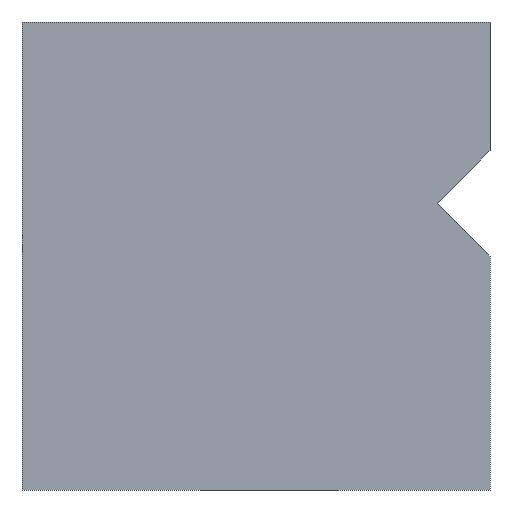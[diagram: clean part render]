
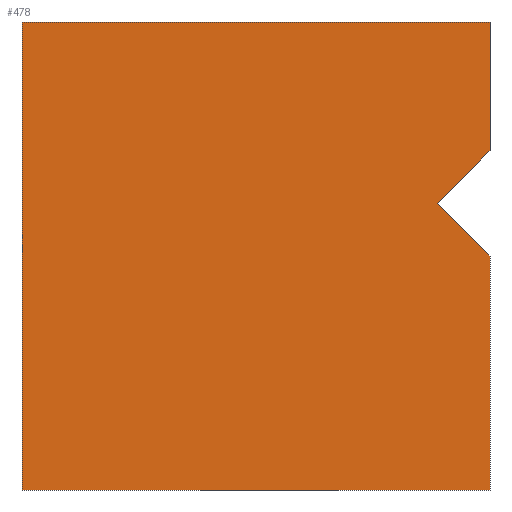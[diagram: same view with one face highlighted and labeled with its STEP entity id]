
A CAD part, front view. The second image highlights one B-rep face of the part: STEP entity #478.
In plain terms, the highlighted planar face has unit normal (0, -1, 0).
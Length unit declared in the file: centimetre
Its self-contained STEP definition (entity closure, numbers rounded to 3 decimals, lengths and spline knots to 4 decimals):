
#14 = CARTESIAN_POINT ( 'NONE',  ( 0., 0., 1000. ) ) ;
#30 = VECTOR ( 'NONE', #269, 100. ) ;
#33 = VERTEX_POINT ( 'NONE', #14 ) ;
#37 = CARTESIAN_POINT ( 'NONE',  ( 1000., 0., 724.5416 ) ) ;
#40 = CARTESIAN_POINT ( 'NONE',  ( 1000., 0., 500. ) ) ;
#48 = DIRECTION ( 'NONE',  ( 0.707, 0., -0.707 ) ) ;
#52 = CARTESIAN_POINT ( 'NONE',  ( 0., 0., 0. ) ) ;
#55 = ORIENTED_EDGE ( 'NONE', *, *, #185, .F. ) ;
#62 = EDGE_LOOP ( 'NONE', ( #55, #102, #345, #387, #469, #124, #300 ) ) ;
#73 = EDGE_CURVE ( 'NONE', #33, #342, #381, .T. ) ;
#81 = CARTESIAN_POINT ( 'NONE',  ( 887.7292, 0., 612.2708 ) ) ;
#84 = CARTESIAN_POINT ( 'NONE',  ( 1000., 0., 1000. ) ) ;
#89 = DIRECTION ( 'NONE',  ( 0., 0., -1. ) ) ;
#92 = CARTESIAN_POINT ( 'NONE',  ( 0., 0., 1000. ) ) ;
#102 = ORIENTED_EDGE ( 'NONE', *, *, #179, .F. ) ;
#114 = AXIS2_PLACEMENT_3D ( 'NONE', #92, #334, #471 ) ;
#115 = EDGE_CURVE ( 'NONE', #163, #203, #282, .T. ) ;
#124 = ORIENTED_EDGE ( 'NONE', *, *, #310, .T. ) ;
#146 = VERTEX_POINT ( 'NONE', #329 ) ;
#156 = CARTESIAN_POINT ( 'NONE',  ( 1000., 0., 1000. ) ) ;
#160 = CARTESIAN_POINT ( 'NONE',  ( 0., 0., 1000. ) ) ;
#163 = VERTEX_POINT ( 'NONE', #37 ) ;
#169 = VECTOR ( 'NONE', #280, 100. ) ;
#179 = EDGE_CURVE ( 'NONE', #203, #529, #550, .T. ) ;
#185 = EDGE_CURVE ( 'NONE', #529, #146, #324, .T. ) ;
#200 = FACE_OUTER_BOUND ( 'NONE', #62, .T. ) ;
#203 = VERTEX_POINT ( 'NONE', #81 ) ;
#233 = LINE ( 'NONE', #595, #434 ) ;
#254 = DIRECTION ( 'NONE',  ( 1., 0., 0. ) ) ;
#269 = DIRECTION ( 'NONE',  ( 0., 0., -1. ) ) ;
#280 = DIRECTION ( 'NONE',  ( -0.707, 0., -0.707 ) ) ;
#282 = LINE ( 'NONE', #584, #169 ) ;
#300 = ORIENTED_EDGE ( 'NONE', *, *, #413, .T. ) ;
#310 = EDGE_CURVE ( 'NONE', #33, #503, #504, .T. ) ;
#315 = CARTESIAN_POINT ( 'NONE',  ( 0., 0., 1000. ) ) ;
#324 = LINE ( 'NONE', #84, #444 ) ;
#329 = CARTESIAN_POINT ( 'NONE',  ( 1000., 0., 0. ) ) ;
#334 = DIRECTION ( 'NONE',  ( 0., 1., 0. ) ) ;
#342 = VERTEX_POINT ( 'NONE', #500 ) ;
#345 = ORIENTED_EDGE ( 'NONE', *, *, #115, .F. ) ;
#355 = DIRECTION ( 'NONE',  ( 1., 0., 0. ) ) ;
#381 = LINE ( 'NONE', #160, #518 ) ;
#387 = ORIENTED_EDGE ( 'NONE', *, *, #468, .F. ) ;
#413 = EDGE_CURVE ( 'NONE', #503, #146, #233, .T. ) ;
#424 = DIRECTION ( 'NONE',  ( 0., 0., -1. ) ) ;
#428 = CARTESIAN_POINT ( 'NONE',  ( 1000., 0., 500. ) ) ;
#434 = VECTOR ( 'NONE', #355, 100. ) ;
#444 = VECTOR ( 'NONE', #89, 100. ) ;
#466 = LINE ( 'NONE', #156, #593 ) ;
#468 = EDGE_CURVE ( 'NONE', #342, #163, #466, .T. ) ;
#469 = ORIENTED_EDGE ( 'NONE', *, *, #73, .F. ) ;
#471 = DIRECTION ( 'NONE',  ( 0., 0., 1. ) ) ;
#478 = ADVANCED_FACE ( 'NONE', ( #200 ), #508, .F. ) ;
#500 = CARTESIAN_POINT ( 'NONE',  ( 1000., 0., 1000. ) ) ;
#503 = VERTEX_POINT ( 'NONE', #52 ) ;
#504 = LINE ( 'NONE', #315, #30 ) ;
#506 = VECTOR ( 'NONE', #48, 100. ) ;
#508 = PLANE ( 'NONE',  #114 ) ;
#518 = VECTOR ( 'NONE', #254, 100. ) ;
#529 = VERTEX_POINT ( 'NONE', #428 ) ;
#550 = LINE ( 'NONE', #40, #506 ) ;
#584 = CARTESIAN_POINT ( 'NONE',  ( 887.7292, 0., 612.2708 ) ) ;
#593 = VECTOR ( 'NONE', #424, 100. ) ;
#595 = CARTESIAN_POINT ( 'NONE',  ( 0., 0., 0. ) ) ;
